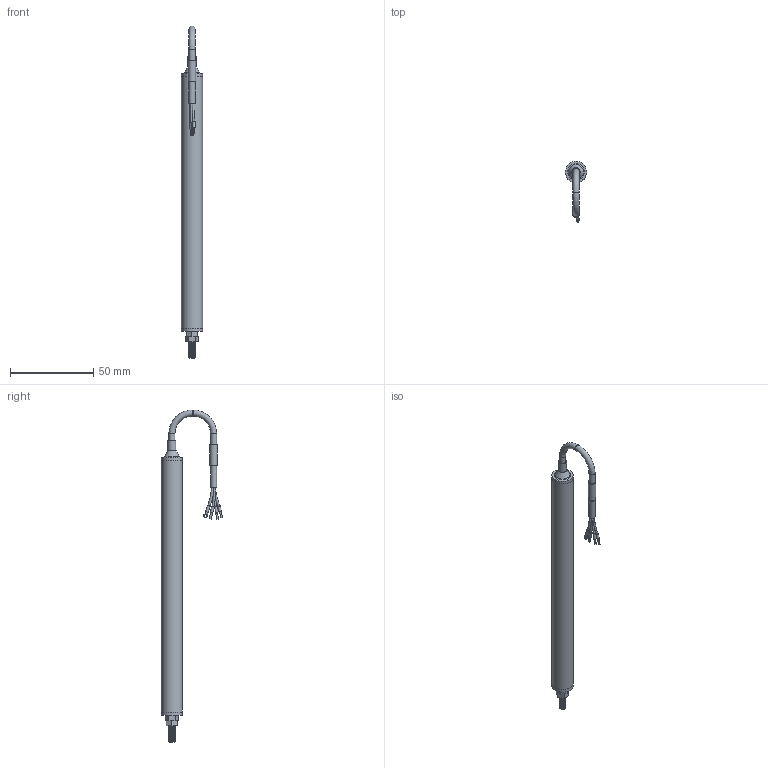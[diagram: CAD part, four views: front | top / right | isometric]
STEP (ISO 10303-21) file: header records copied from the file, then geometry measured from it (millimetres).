
FILE_DESCRIPTION(/* description */ (''),/* implementation_level */ '2;1');
FILE_NAME(/* name */ 'LPPS-12-100-A Assembly (wrapped).step',/* time_stamp */ '2023-10-10T09:59:14-04:00',/* author */ ('TSC_Grant'),/* organization */ (''),/* preprocessor_version */ 'ST-DEVELOPER v19.2',/* originating_system */ 'Autodesk Inventor 2024',/* authorisation */ '');
FILE_SCHEMA (('AUTOMOTIVE_DESIGN { 1 0 10303 214 3 1 1 }'));
Length unit declared in the file: inch
Products named in the file (4): LPPS-12-010-A Assembly (wrapped); LPPS-12-010-A Body (wrapped); LPPS-12-010-A Assembly_Simplify_1; Wire
Assembly tree (3 placements, depth 2):
  LPPS-12-010-A Assembly (wrapped)
    LPPS-12-010-A Body (wrapped)
    LPPS-12-010-A Assembly_Simplify_1
    Wire
Bounding box: 12.7 x 36.8 x 199.24 mm (x, y, z)
Volume: 20472.8 mm3; surface area: 12106.7 mm2
Topology: 13 solids, 13 shells, 133 faces, 286 edges, 190 vertices
Faces by surface type: plane 75, cylinder 44, bspline 8, torus 5, cone 1
Full cylindrical faces by diameter (mm): 1.016 x3, 1.27 x1, 1.524 x3, 1.651 x2, 3.632 x6, 3.937 x8, 4.191 x1, 4.445 x1, 4.826 x1, 12.7 x3
Entity records: 5483 total; most frequent: CARTESIAN_POINT 2222, DIRECTION 619, ORIENTED_EDGE 572, EDGE_CURVE 286, AXIS2_PLACEMENT_3D 236, VERTEX_POINT 190, EDGE_LOOP 150, LINE 147
